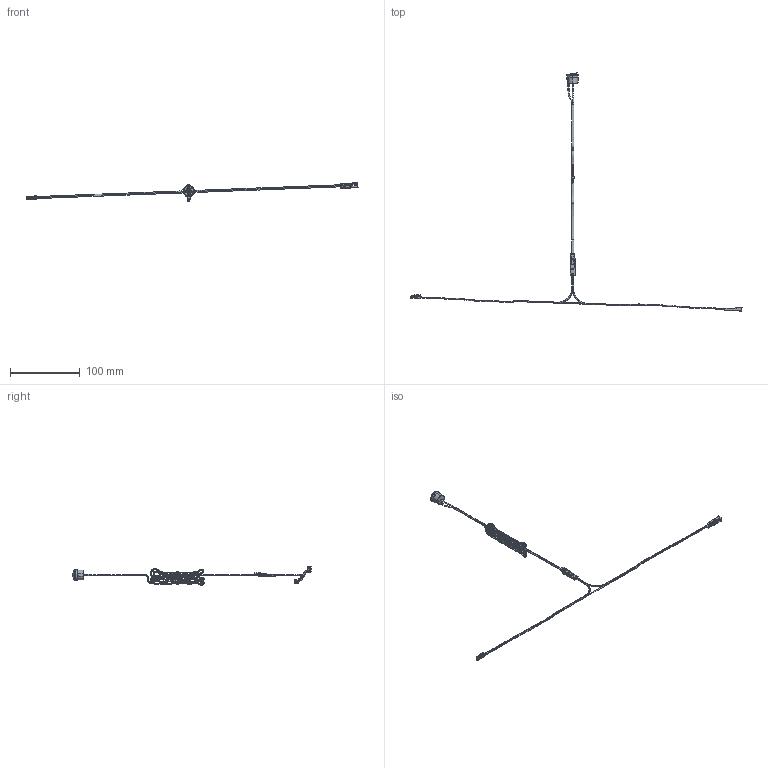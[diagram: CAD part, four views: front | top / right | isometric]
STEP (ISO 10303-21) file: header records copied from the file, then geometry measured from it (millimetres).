
FILE_DESCRIPTION (( 'STEP AP203' ), '1' );
FILE_NAME ('Mini-Einbauwippschalter_24.STEP', '2024-12-03T07:43:48', ( '' ), ( '' ), 'SwSTEP 2.0', 'SolidWorks 2023', '' );
FILE_SCHEMA (( 'CONFIG_CONTROL_DESIGN' ));
Length unit declared in the file: millimetre
Products named in the file (12): M3_Buchse_2x_rot_L=180; Koplung_M1_M3; 1916503_Pr1251_Mini_Stecker_LED_sw_; Mini-Einbauwippschalter_24; Kabel_gewickelt_nur_rot_mit Gleichrichter; M1_Stecker_gewickelt; M3_Stecker_2x_rot_Unten; 3697471_Schlater; M1_Buchse_gewickelt_ohne Wickel; M1_F_Buchse_schwarz_MWI; M3_Stecker_2x_rot_oben; M1_Stecker_gewickelt_ohne Wickel
Assembly tree (12 placements, depth 3):
  Mini-Einbauwippschalter_24
    3697471_Schlater
    M1_Buchse_gewickelt_ohne Wickel
      M1_F_Buchse_schwarz_MWI
      M1_Stecker_gewickelt_ohne Wickel
    M1_Stecker_gewickelt
      1916503_Pr1251_Mini_Stecker_LED_sw_
      M1_Stecker_gewickelt_ohne Wickel
    Koplung_M1_M3
    M3_Buchse_2x_rot_L=180
    Kabel_gewickelt_nur_rot_mit Gleichrichter
    M3_Stecker_2x_rot_Unten
    M3_Stecker_2x_rot_oben
Bounding box: 476.09 x 341.61 x 26.45 mm (x, y, z)
Volume: 7476.5 mm3; surface area: 15797.8 mm2
Topology: 17 solids, 17 shells, 910 faces, 2150 edges, 1172 vertices
Faces by surface type: cylinder 351, plane 297, torus 87, sphere 86, bspline 84, cone 5
Entity records: 51805 total; most frequent: CARTESIAN_POINT 31226, DIRECTION 4160, ORIENTED_EDGE 3954, EDGE_CURVE 1977, AXIS2_PLACEMENT_3D 1553, VERTEX_POINT 1133, VECTOR 1054, LINE 1054
